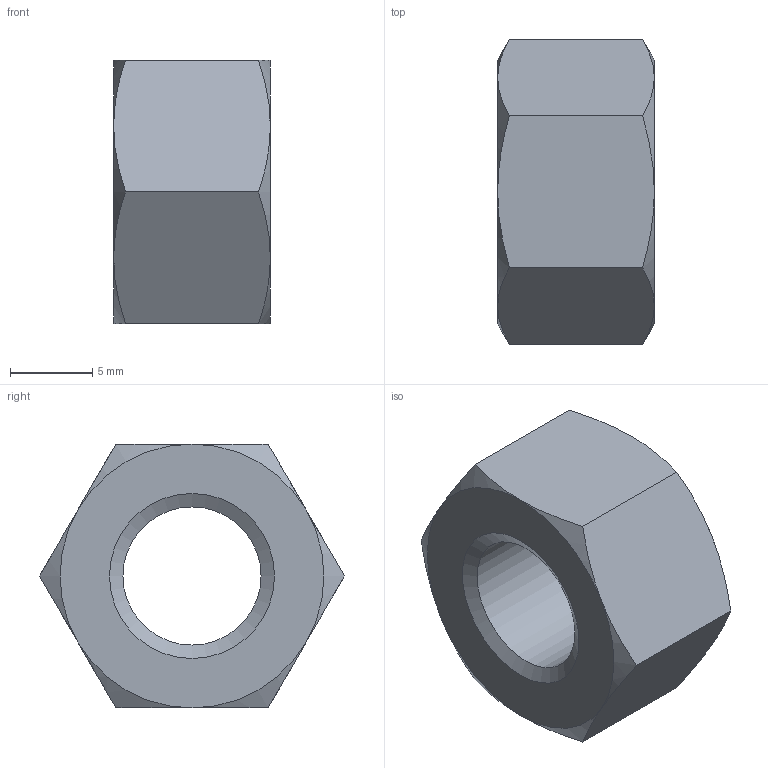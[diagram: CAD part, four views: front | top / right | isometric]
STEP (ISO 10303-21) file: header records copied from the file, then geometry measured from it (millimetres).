
FILE_DESCRIPTION(/* description */ ('6각 너트 및 6각 가는 너트'),/* implementation_level */ '2;1');
FILE_NAME(/* name */ '',/* time_stamp */ '2025-06-27T16:36:42+09:00',/* author */ ('jhkim'),/* organization */ (''),/* preprocessor_version */ 'ST-DEVELOPER v20.1',/* originating_system */ 'Autodesk Inventor 2026',/* authorisation */ '');
FILE_SCHEMA (('AUTOMOTIVE_DESIGN { 1 0 10303 214 3 1 1 }'));
Length unit declared in the file: millimetre
Products named in the file (1): 6각 너트 M10
Bounding box: 9.5 x 18.48 x 16 mm (x, y, z)
Volume: 1563.2 mm3; surface area: 1071.5 mm2
Topology: 1 solids, 1 shells, 23 faces, 50 edges, 29 vertices
Faces by surface type: cone 14, plane 8, cylinder 1
Full cylindrical faces by diameter (mm): 8.376 x1
Entity records: 640 total; most frequent: CARTESIAN_POINT 151, ORIENTED_EDGE 100, DIRECTION 91, EDGE_CURVE 50, AXIS2_PLACEMENT_3D 41, VERTEX_POINT 29, EDGE_LOOP 25, FACE_OUTER_BOUND 23
